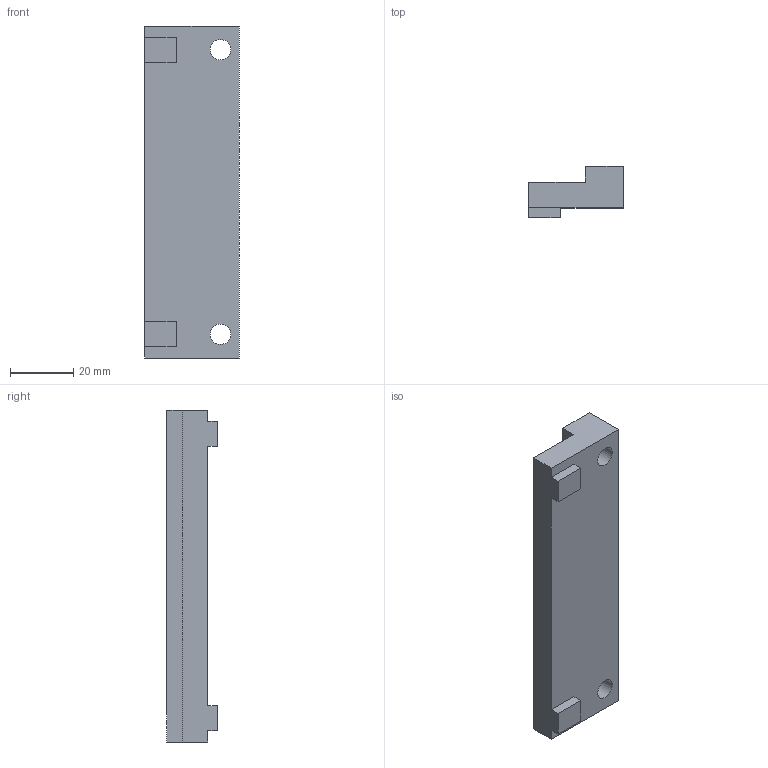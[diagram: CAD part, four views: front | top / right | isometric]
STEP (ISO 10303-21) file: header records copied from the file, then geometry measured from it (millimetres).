
FILE_DESCRIPTION(('STEP AP203'), '1');
FILE_NAME('ÒÏÏÔ1801.01.07.00.004 - Óïîð ìîäóëÿ', '', ('UNSPECIFIED'), ('UNSPECIFIED'), 'C3D Converter', 'C3D Toolkit', '');
FILE_SCHEMA(('CONFIG_CONTROL_DESIGN'));
Length unit declared in the file: millimetre
Products named in the file (1): ТППФ1801.01.07.00.004
Bounding box: 30 x 16 x 105 mm (x, y, z)
Volume: 31117.2 mm3; surface area: 10244.2 mm2
Topology: 1 solids, 1 shells, 18 faces, 48 edges, 32 vertices
Faces by surface type: plane 16, cylinder 2
Full cylindrical faces by diameter (mm): 6.5 x2
Entity records: 738 total; most frequent: CARTESIAN_POINT 97, ORIENTED_EDGE 92, DIRECTION 88, EDGE_CURVE 46, LINE 42, VECTOR 42, VERTEX_POINT 32, EDGE_LOOP 24
